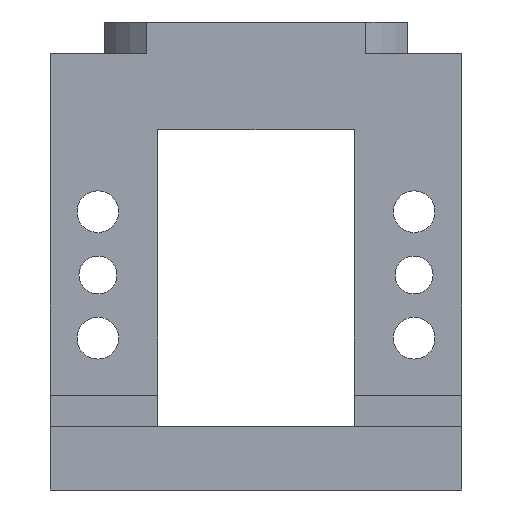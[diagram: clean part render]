
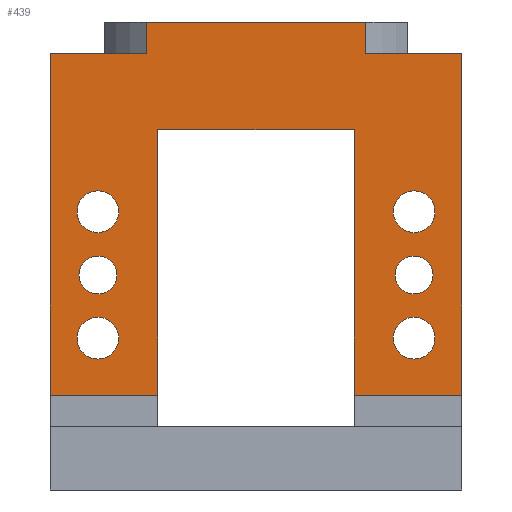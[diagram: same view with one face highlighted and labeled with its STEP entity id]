
A CAD part, front view. The second image highlights one B-rep face of the part: STEP entity #439.
In plain terms, the highlighted planar face has unit normal (0, -1, 0).
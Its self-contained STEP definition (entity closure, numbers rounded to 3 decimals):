
#327=CIRCLE('',#3426,3.);
#329=CIRCLE('',#3429,3.);
#360=CIRCLE('',#3485,3.3);
#363=CIRCLE('',#3490,3.3);
#367=CIRCLE('',#3496,3.3);
#371=CIRCLE('',#3502,3.3);
#439=ADVANCED_FACE('',(#1214,#1215,#1216,#1217,#1218,#1219,#1220),#586,
 .F.);
#586=PLANE('',#3531);
#724=LINE('',#5053,#921);
#730=LINE('',#5067,#927);
#737=LINE('',#5095,#934);
#740=LINE('',#5108,#937);
#742=LINE('',#5111,#939);
#747=LINE('',#5127,#944);
#748=LINE('',#5129,#945);
#749=LINE('',#5131,#946);
#750=LINE('',#5133,#947);
#751=LINE('',#5134,#948);
#752=LINE('',#5136,#949);
#753=LINE('',#5138,#950);
#921=VECTOR('',#3875,1.);
#927=VECTOR('',#3885,1.);
#934=VECTOR('',#3900,1.);
#937=VECTOR('',#3913,1.);
#939=VECTOR('',#3917,1.);
#944=VECTOR('',#3930,1.);
#945=VECTOR('',#3931,1.);
#946=VECTOR('',#3932,1.);
#947=VECTOR('',#3933,1.);
#948=VECTOR('',#3934,1.);
#949=VECTOR('',#3935,1.);
#950=VECTOR('',#3936,1.);
#1214=FACE_BOUND('',#1352,.T.);
#1215=FACE_BOUND('',#1353,.T.);
#1216=FACE_BOUND('',#1354,.T.);
#1217=FACE_BOUND('',#1355,.T.);
#1218=FACE_BOUND('',#1356,.T.);
#1219=FACE_BOUND('',#1357,.T.);
#1220=FACE_BOUND('',#1358,.T.);
#1352=EDGE_LOOP('',(#1788));
#1353=EDGE_LOOP('',(#1789));
#1354=EDGE_LOOP('',(#1790));
#1355=EDGE_LOOP('',(#1791));
#1356=EDGE_LOOP('',(#1792));
#1357=EDGE_LOOP('',(#1793));
#1358=EDGE_LOOP('',(#1794,#1795,#1796,#1797,#1798,#1799,#1800,#1801,#1802,
#1803,#1804,#1805));
#1788=ORIENTED_EDGE('',*,*,#2839,.F.);
#1789=ORIENTED_EDGE('',*,*,#2841,.F.);
#1790=ORIENTED_EDGE('',*,*,#2889,.F.);
#1791=ORIENTED_EDGE('',*,*,#2885,.F.);
#1792=ORIENTED_EDGE('',*,*,#2878,.F.);
#1793=ORIENTED_EDGE('',*,*,#2881,.F.);
#1794=ORIENTED_EDGE('',*,*,#2951,.F.);
#1795=ORIENTED_EDGE('',*,*,#2960,.F.);
#1796=ORIENTED_EDGE('',*,*,#2961,.T.);
#1797=ORIENTED_EDGE('',*,*,#2962,.T.);
#1798=ORIENTED_EDGE('',*,*,#2963,.F.);
#1799=ORIENTED_EDGE('',*,*,#2933,.F.);
#1800=ORIENTED_EDGE('',*,*,#2964,.T.);
#1801=ORIENTED_EDGE('',*,*,#2965,.T.);
#1802=ORIENTED_EDGE('',*,*,#2966,.F.);
#1803=ORIENTED_EDGE('',*,*,#2926,.T.);
#1804=ORIENTED_EDGE('',*,*,#2953,.F.);
#1805=ORIENTED_EDGE('',*,*,#2944,.F.);
#2515=VERTEX_POINT('',#4820);
#2517=VERTEX_POINT('',#4825);
#2558=VERTEX_POINT('',#4952);
#2561=VERTEX_POINT('',#4960);
#2565=VERTEX_POINT('',#4970);
#2569=VERTEX_POINT('',#4980);
#2598=VERTEX_POINT('',#5052);
#2599=VERTEX_POINT('',#5054);
#2604=VERTEX_POINT('',#5066);
#2605=VERTEX_POINT('',#5068);
#2613=VERTEX_POINT('',#5094);
#2614=VERTEX_POINT('',#5096);
#2618=VERTEX_POINT('',#5107);
#2622=VERTEX_POINT('',#5128);
#2623=VERTEX_POINT('',#5130);
#2624=VERTEX_POINT('',#5132);
#2625=VERTEX_POINT('',#5135);
#2626=VERTEX_POINT('',#5137);
#2839=EDGE_CURVE('',#2515,#2515,#327,.T.);
#2841=EDGE_CURVE('',#2517,#2517,#329,.T.);
#2878=EDGE_CURVE('',#2558,#2558,#360,.T.);
#2881=EDGE_CURVE('',#2561,#2561,#363,.T.);
#2885=EDGE_CURVE('',#2565,#2565,#367,.T.);
#2889=EDGE_CURVE('',#2569,#2569,#371,.T.);
#2926=EDGE_CURVE('',#2599,#2598,#724,.T.);
#2933=EDGE_CURVE('',#2604,#2605,#730,.T.);
#2944=EDGE_CURVE('',#2613,#2614,#737,.T.);
#2951=EDGE_CURVE('',#2618,#2613,#740,.T.);
#2953=EDGE_CURVE('',#2614,#2598,#742,.T.);
#2960=EDGE_CURVE('',#2622,#2618,#747,.T.);
#2961=EDGE_CURVE('',#2622,#2623,#748,.T.);
#2962=EDGE_CURVE('',#2623,#2624,#749,.T.);
#2963=EDGE_CURVE('',#2605,#2624,#750,.T.);
#2964=EDGE_CURVE('',#2604,#2625,#751,.T.);
#2965=EDGE_CURVE('',#2625,#2626,#752,.T.);
#2966=EDGE_CURVE('',#2599,#2626,#753,.T.);
#3426=AXIS2_PLACEMENT_3D('',#4819,#3662,#3663);
#3429=AXIS2_PLACEMENT_3D('',#4824,#3668,#3669);
#3485=AXIS2_PLACEMENT_3D('',#4951,#3784,#3785);
#3490=AXIS2_PLACEMENT_3D('',#4959,#3794,#3795);
#3496=AXIS2_PLACEMENT_3D('',#4969,#3806,#3807);
#3502=AXIS2_PLACEMENT_3D('',#4979,#3818,#3819);
#3531=AXIS2_PLACEMENT_3D('',#5139,#3937,#3938);
#3662=DIRECTION('',(0.,-1.,0.));
#3663=DIRECTION('',(0.,0.,-1.));
#3668=DIRECTION('',(0.,-1.,0.));
#3669=DIRECTION('',(0.,0.,-1.));
#3784=DIRECTION('',(0.,-1.,0.));
#3785=DIRECTION('',(-1.,0.,0.));
#3794=DIRECTION('',(0.,-1.,0.));
#3795=DIRECTION('',(-1.,0.,0.));
#3806=DIRECTION('',(0.,-1.,0.));
#3807=DIRECTION('',(-1.,0.,0.));
#3818=DIRECTION('',(0.,-1.,0.));
#3819=DIRECTION('',(-1.,0.,0.));
#3875=DIRECTION('',(-1.,0.,0.));
#3885=DIRECTION('',(-1.,0.,0.));
#3900=DIRECTION('',(1.,0.,0.));
#3913=DIRECTION('',(0.,0.,1.));
#3917=DIRECTION('',(0.,0.,-1.));
#3930=DIRECTION('',(1.,0.,0.));
#3931=DIRECTION('',(0.,0.,-1.));
#3932=DIRECTION('',(1.,0.,0.));
#3933=DIRECTION('',(0.,0.,-1.));
#3934=DIRECTION('',(0.,0.,-1.));
#3935=DIRECTION('',(1.,0.,0.));
#3936=DIRECTION('',(0.,0.,-1.));
#3937=DIRECTION('',(0.,1.,0.));
#3938=DIRECTION('',(1.,0.,0.));
#4819=CARTESIAN_POINT('',(-25.,-22.,29.));
#4820=CARTESIAN_POINT('',(-25.,-22.,26.));
#4824=CARTESIAN_POINT('',(25.,-22.,29.));
#4825=CARTESIAN_POINT('',(25.,-22.,26.));
#4951=CARTESIAN_POINT('',(25.,-22.,39.));
#4952=CARTESIAN_POINT('',(21.7,-22.,39.));
#4959=CARTESIAN_POINT('',(25.,-22.,19.));
#4960=CARTESIAN_POINT('',(21.7,-22.,19.));
#4969=CARTESIAN_POINT('',(-25.,-22.,19.));
#4970=CARTESIAN_POINT('',(-28.3,-22.,19.));
#4979=CARTESIAN_POINT('',(-25.,-22.,39.));
#4980=CARTESIAN_POINT('',(-28.3,-22.,39.));
#5052=CARTESIAN_POINT('',(17.321,-22.,64.));
#5053=CARTESIAN_POINT('',(32.5,-22.,64.));
#5054=CARTESIAN_POINT('',(32.5,-22.,64.));
#5066=CARTESIAN_POINT('',(15.5,-22.,52.));
#5067=CARTESIAN_POINT('',(-31.,-22.,52.));
#5068=CARTESIAN_POINT('',(-15.5,-22.,52.));
#5094=CARTESIAN_POINT('',(-17.321,-22.,69.));
#5095=CARTESIAN_POINT('',(26.,-22.,69.));
#5096=CARTESIAN_POINT('',(17.321,-22.,69.));
#5107=CARTESIAN_POINT('',(-17.321,-22.,64.));
#5108=CARTESIAN_POINT('',(-17.321,-22.,-25.344));
#5111=CARTESIAN_POINT('',(17.321,-22.,-25.344));
#5127=CARTESIAN_POINT('',(-32.5,-22.,64.));
#5128=CARTESIAN_POINT('',(-32.5,-22.,64.));
#5129=CARTESIAN_POINT('',(-32.5,-22.,64.));
#5130=CARTESIAN_POINT('',(-32.5,-22.,10.));
#5131=CARTESIAN_POINT('',(-32.5,-22.,10.));
#5132=CARTESIAN_POINT('',(-15.5,-22.,10.));
#5133=CARTESIAN_POINT('',(-15.5,-22.,59.));
#5134=CARTESIAN_POINT('',(15.5,-22.,59.));
#5135=CARTESIAN_POINT('',(15.5,-22.,10.));
#5136=CARTESIAN_POINT('',(-32.5,-22.,10.));
#5137=CARTESIAN_POINT('',(32.5,-22.,10.));
#5138=CARTESIAN_POINT('',(32.5,-22.,64.));
#5139=CARTESIAN_POINT('',(32.5,-22.,64.));
